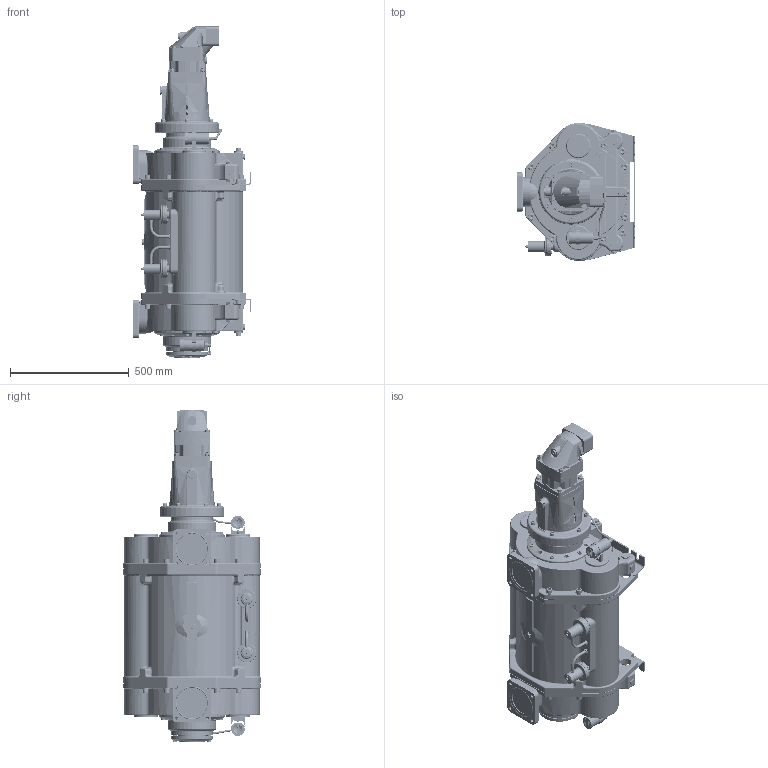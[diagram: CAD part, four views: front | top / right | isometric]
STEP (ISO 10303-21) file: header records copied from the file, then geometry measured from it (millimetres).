
FILE_DESCRIPTION(/* description */ (''),/* implementation_level */ '2;1');
FILE_NAME(/* name */ '1700035C.stp',/* time_stamp */ '2025-09-23T14:26:55+02:00',/* author */ ('JJ'),/* organization */ (''),/* preprocessor_version */ 'ST-DEVELOPER v20',/* originating_system */ 'Autodesk Inventor 2025',/* authorisation */ '');
FILE_SCHEMA (('AUTOMOTIVE_DESIGN { 1 0 10303 214 3 1 1 }'));
Products named in the file (33): 1700035; 1700034 Ready for adaptor; 1700034_Part4; 1700033_Part2; 1615072; 1615074; 1634826; 1634811; 922000266; 910300073; 915000050; 932400151; 932400152; 932400153; 944000088; 944000088_part1; 944000088_part2; 944000088_part3; 910100198; 910100013; 910200013; 910300074; 922200266; 915000232; 915000225; 915000225-part1; 915000225-part2; 944600240; 910100191; 910300221; 944600173; 944600239; 915000217-TM5 adapter
Assembly tree (49 placements, depth 3):
  1700035
    1700034 Ready for adaptor
    1700034_Part4
    1700033_Part2
    1615072
    1615074
    1634826
      1634811
      922000266
    910300073  x6
    915000050
    932400151
    932400152
    932400153
    944000088
      944000088_part1
      944000088_part2
      944000088_part3
    910100198  x4
    910100013  x4
    910200013  x4
    910300074  x4
    922200266
    915000232
    915000225
      915000225-part1
      915000225-part2
    944600240
    910100191
    910300221
    944600173
    944600239
    915000217-TM5 adapter
Bounding box: 499.09 x 579 x 1395.6 mm (x, y, z)
Volume: 141829103.8 mm3; surface area: 3479667 mm2
Topology: 49 solids, 50 shells, 5860 faces, 14865 edges, 9504 vertices
Faces by surface type: plane 2411, cylinder 1476, bspline 1121, cone 433, torus 349, sphere 70
Full cylindrical faces by diameter (mm): 1.5 x16, 3.2 x4, 3.3 x4, 3.5 x4, 4 x3, 4.134 x4, 4.92 x8, 5 x2, 5.3 x2, 6 x12, 6.1 x2, 6.4 x2, 6.647 x1, 8 x23, 8.5 x4, 8.57 x2, 8.92 x1, 9.2 x2, 9.7 x2, 9.8 x4, 10 x15, 10.106 x34, 11 x4, 11.445 x1, 12 x131, 13 x22, 13.5 x8, 13.835 x9, 14.95 x2, 15 x4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
Entity records: 219151 total; most frequent: CARTESIAN_POINT 87086, ORIENTED_EDGE 27942, DIRECTION 24038, EDGE_CURVE 13971, VERTEX_POINT 8989, AXIS2_PLACEMENT_3D 8811, LINE 6416, VECTOR 6416
